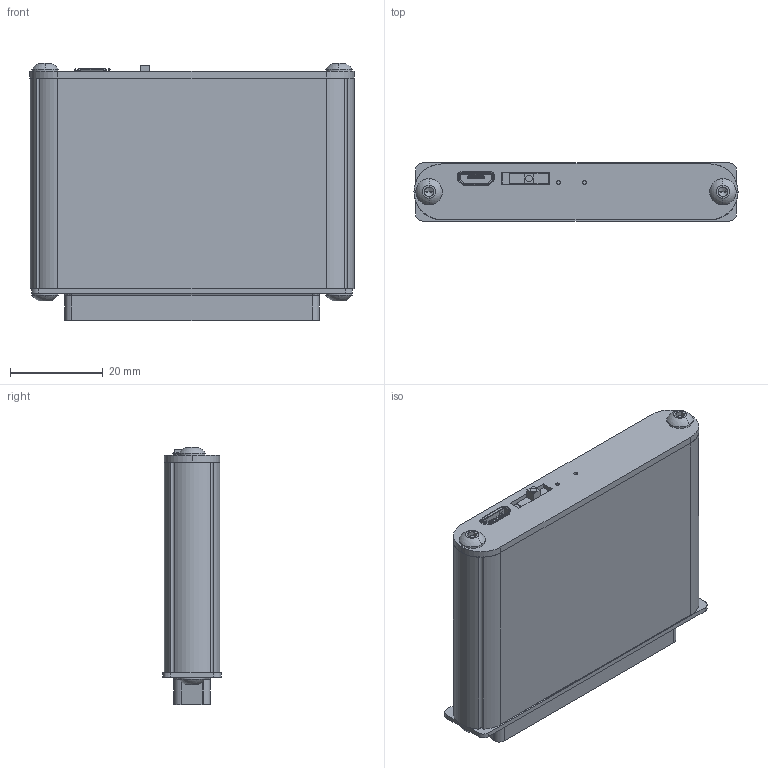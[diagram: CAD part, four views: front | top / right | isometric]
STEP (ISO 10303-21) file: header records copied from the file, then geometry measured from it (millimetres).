
FILE_DESCRIPTION (( 'STEP AP214' ), '1' );
FILE_NAME ('Beacon-CU16.STEP', '2024-02-13T11:13:05', ( '' ), ( '' ), 'SwSTEP 2.0', 'SolidWorks 2011', '' );
FILE_SCHEMA (( 'AUTOMOTIVE_DESIGN' ));
Length unit declared in the file: millimetre
Products named in the file (9): socket button head screw_iso_ISO 7380 - M3 x 8 --- 8N; DS37S; Led; 1455A80_45_mirror; USBmicro; Switch; Beacon_CU16_PCB; FrontPlate2; Beacon-CU16
Assembly tree (12 placements, depth 2):
  Beacon-CU16
    socket button head screw_iso_ISO 7380 - M3 x 8 --- 8N  x4
    1455A80_45_mirror
    Switch
    USBmicro
    FrontPlate2
    DS37S
    Beacon_CU16_PCB
    Led  x2
Bounding box: 70 x 12.55 x 55.53 mm (x, y, z)
Volume: 23104.4 mm3; surface area: 27843.4 mm2
Topology: 12 solids, 12 shells, 1585 faces, 4086 edges, 2618 vertices
Faces by surface type: plane 869, cylinder 630, bspline 54, cone 16, torus 8, sphere 8
Entity records: 54606 total; most frequent: CARTESIAN_POINT 12051, ORIENTED_EDGE 7784, DIRECTION 7264, EDGE_CURVE 3892, VERTEX_POINT 2505, AXIS2_PLACEMENT_3D 2499, LINE 2266, VECTOR 2266
